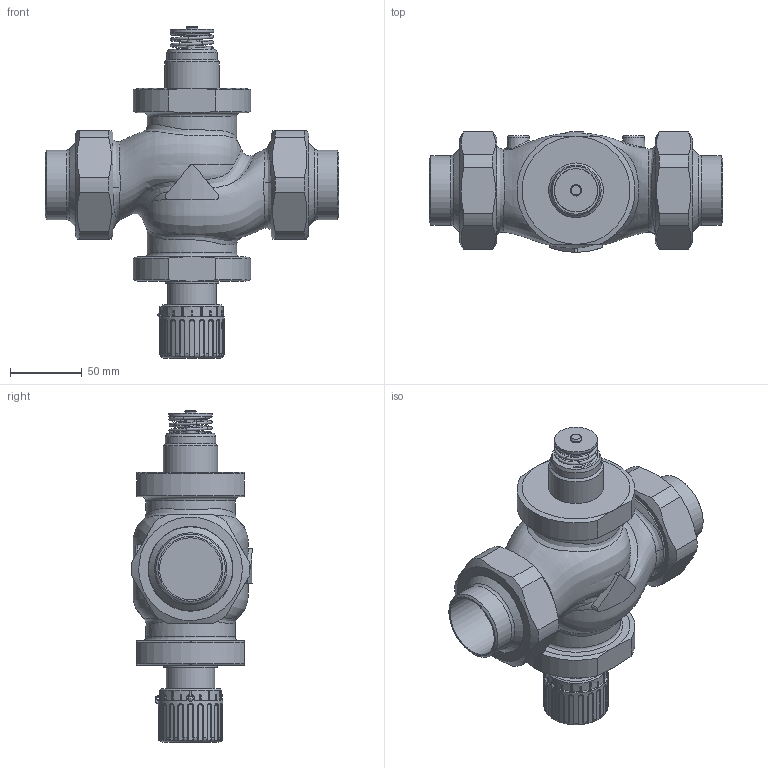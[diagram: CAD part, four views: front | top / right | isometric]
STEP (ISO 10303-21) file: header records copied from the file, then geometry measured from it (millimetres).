
FILE_DESCRIPTION(/* description */ (''),/* implementation_level */ '2;1');
FILE_NAME(/* name */ 'rv122p_dn40_W.stp',/* time_stamp */ '2012-11-05T15:31:38+01:00',/* author */ ('JENIK'),/* organization */ ('LDM'),/* preprocessor_version */ 'ST-DEVELOPER v11',/* originating_system */ 'SIEMENS PLM Software NX 7.0',/* authorisation */ '');
FILE_SCHEMA (('CONFIG_CONTROL_DESIGN'));
Length unit declared in the file: millimetre
Products named in the file (1): jeniA85B0doa
Bounding box: 204 x 83.98 x 230.8 mm (x, y, z)
Volume: 144153 mm3; surface area: 137712.2 mm2
Topology: 6 solids, 7 shells, 561 faces, 1389 edges, 858 vertices
Faces by surface type: cylinder 208, plane 147, bspline 97, torus 72, cone 36, sphere 1
Full cylindrical faces by diameter (mm): 2 x1, 2.5 x1, 8 x2, 24.5 x1, 30 x1, 33.8 x1, 35 x1, 37 x1, 38 x1, 43 x1, 43.1 x2, 48.3 x2, 50 x2, 58.5 x2, 59 x2, 62 x4, 62.5 x2, 62.752 x2, 65.71 x2
Entity records: 29476 total; most frequent: CARTESIAN_POINT 17567, ORIENTED_EDGE 2504, DIRECTION 2280, EDGE_CURVE 1252, AXIS2_PLACEMENT_3D 956, VERTEX_POINT 810, EDGE_LOOP 680, ADVANCED_FACE 559
